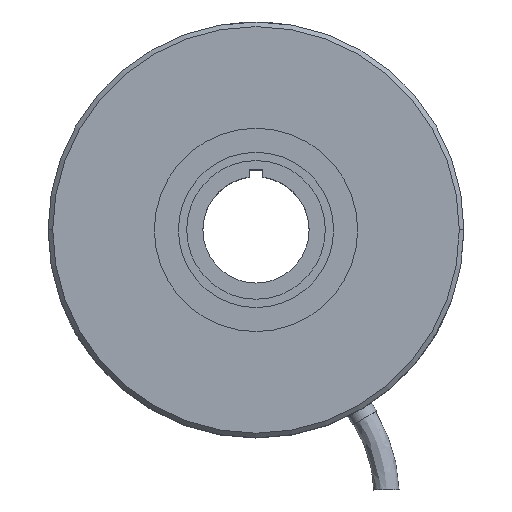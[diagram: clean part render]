
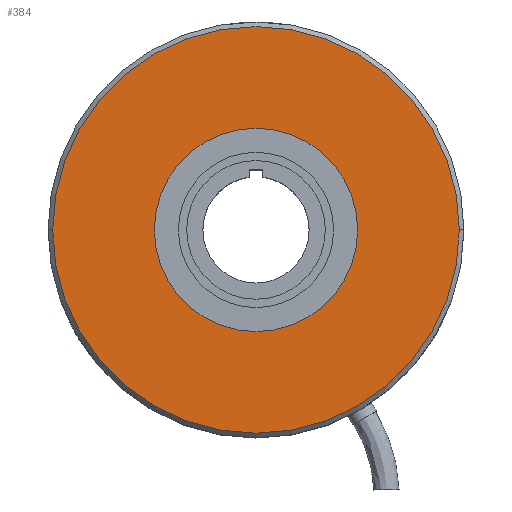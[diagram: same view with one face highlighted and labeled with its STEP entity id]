
A CAD part, top view. The second image highlights one B-rep face of the part: STEP entity #384.
In plain terms, the highlighted planar face has unit normal (0, 0, 1).
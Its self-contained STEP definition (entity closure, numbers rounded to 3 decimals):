
#60 = CARTESIAN_POINT ( 'NONE',  ( 0., 0., 30. ) ) ;
#115 = VERTEX_POINT ( 'NONE', #259 ) ;
#129 = CARTESIAN_POINT ( 'NONE',  ( -22., 0., 30. ) ) ;
#165 = CARTESIAN_POINT ( 'NONE',  ( 0., 0., 30. ) ) ;
#206 = ORIENTED_EDGE ( 'NONE', *, *, #324, .F. ) ;
#259 = CARTESIAN_POINT ( 'NONE',  ( 22., 0., 30. ) ) ;
#299 = EDGE_LOOP ( 'NONE', ( #1765, #206 ) ) ;
#324 = EDGE_CURVE ( 'NONE', #1383, #115, #928, .T. ) ;
#342 = ORIENTED_EDGE ( 'NONE', *, *, #407, .T. ) ;
#346 = DIRECTION ( 'NONE',  ( 1., 0., 0. ) ) ;
#354 = FACE_OUTER_BOUND ( 'NONE', #849, .T. ) ;
#369 = DIRECTION ( 'NONE',  ( 1., 0., 0. ) ) ;
#384 = ADVANCED_FACE ( 'NONE', ( #506, #354 ), #1702, .T. ) ;
#394 = AXIS2_PLACEMENT_3D ( 'NONE', #1843, #1255, #369 ) ;
#395 = EDGE_CURVE ( 'NONE', #115, #1383, #1503, .T. ) ;
#396 = VERTEX_POINT ( 'NONE', #1112 ) ;
#407 = EDGE_CURVE ( 'NONE', #440, #396, #1274, .T. ) ;
#440 = VERTEX_POINT ( 'NONE', #1720 ) ;
#461 = EDGE_CURVE ( 'NONE', #396, #440, #894, .T. ) ;
#506 = FACE_BOUND ( 'NONE', #299, .T. ) ;
#643 = AXIS2_PLACEMENT_3D ( 'NONE', #1850, #959, #346 ) ;
#759 = DIRECTION ( 'NONE',  ( 0., 0., 1. ) ) ;
#849 = EDGE_LOOP ( 'NONE', ( #1122, #342 ) ) ;
#894 = CIRCLE ( 'NONE', #1777, 44. ) ;
#928 = CIRCLE ( 'NONE', #1150, 22. ) ;
#959 = DIRECTION ( 'NONE',  ( 0., 0., 1. ) ) ;
#1112 = CARTESIAN_POINT ( 'NONE',  ( -44., 0., 30. ) ) ;
#1122 = ORIENTED_EDGE ( 'NONE', *, *, #461, .T. ) ;
#1150 = AXIS2_PLACEMENT_3D ( 'NONE', #165, #759, #1246 ) ;
#1246 = DIRECTION ( 'NONE',  ( 1., 0., 0. ) ) ;
#1255 = DIRECTION ( 'NONE',  ( 0., 0., 1. ) ) ;
#1274 = CIRCLE ( 'NONE', #1740, 44. ) ;
#1383 = VERTEX_POINT ( 'NONE', #129 ) ;
#1411 = DIRECTION ( 'NONE',  ( 0., 0., 1. ) ) ;
#1503 = CIRCLE ( 'NONE', #643, 22. ) ;
#1549 = DIRECTION ( 'NONE',  ( 0., 0., 1. ) ) ;
#1558 = DIRECTION ( 'NONE',  ( 1., 0., 0. ) ) ;
#1570 = CARTESIAN_POINT ( 'NONE',  ( 0., 0., 30. ) ) ;
#1702 = PLANE ( 'NONE',  #394 ) ;
#1713 = DIRECTION ( 'NONE',  ( 1., 0., 0. ) ) ;
#1720 = CARTESIAN_POINT ( 'NONE',  ( 44., 0., 30. ) ) ;
#1740 = AXIS2_PLACEMENT_3D ( 'NONE', #1570, #1549, #1713 ) ;
#1765 = ORIENTED_EDGE ( 'NONE', *, *, #395, .F. ) ;
#1777 = AXIS2_PLACEMENT_3D ( 'NONE', #60, #1411, #1558 ) ;
#1843 = CARTESIAN_POINT ( 'NONE',  ( 0., 0., 30. ) ) ;
#1850 = CARTESIAN_POINT ( 'NONE',  ( 0., 0., 30. ) ) ;
